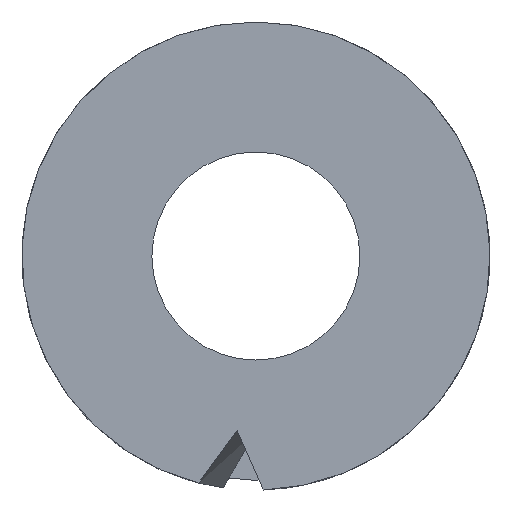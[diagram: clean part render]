
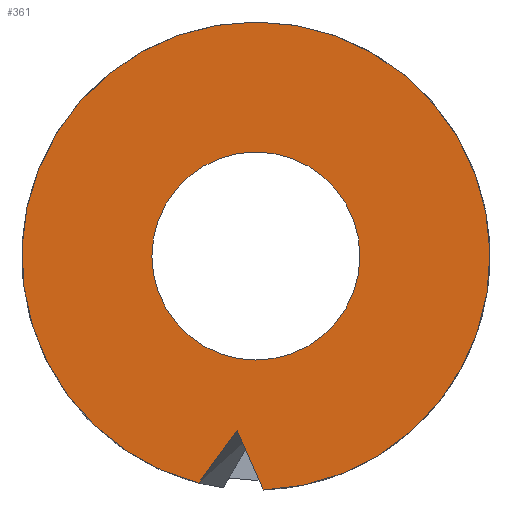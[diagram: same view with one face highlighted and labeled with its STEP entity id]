
A CAD part, left-side view. The second image highlights one B-rep face of the part: STEP entity #361.
In plain terms, the highlighted planar face has unit normal (-1, 0, 0).
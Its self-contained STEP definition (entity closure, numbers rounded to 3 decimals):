
#29 = CIRCLE ( 'NONE', #126, 0.8 ) ;
#43 = CARTESIAN_POINT ( 'NONE',  ( -4., 0., 1.8 ) ) ;
#67 = EDGE_CURVE ( 'NONE', #1027, #180, #130, .T. ) ;
#126 = AXIS2_PLACEMENT_3D ( 'NONE', #456, #283, #1204 ) ;
#130 =( BOUNDED_CURVE ( )  B_SPLINE_CURVE ( 1, ( #1058, #312 ),
 .UNSPECIFIED., .F., .T. ) 
 B_SPLINE_CURVE_WITH_KNOTS ( ( 2, 2 ),
 ( 0., 0. ),
 .UNSPECIFIED. ) 
 CURVE ( )  GEOMETRIC_REPRESENTATION_ITEM ( )  RATIONAL_B_SPLINE_CURVE ( ( 0.997, 0.997 ) ) 
 REPRESENTATION_ITEM ( '' )  );
#144 = EDGE_CURVE ( 'NONE', #926, #486, #682, .T. ) ;
#156 = DIRECTION ( 'NONE',  ( 1., 0., 0. ) ) ;
#172 = EDGE_LOOP ( 'NONE', ( #1025, #1155, #657, #199 ) ) ;
#180 = VERTEX_POINT ( 'NONE', #204 ) ;
#184 = CIRCLE ( 'NONE', #502, 1.8 ) ;
#199 = ORIENTED_EDGE ( 'NONE', *, *, #543, .F. ) ;
#204 = CARTESIAN_POINT ( 'NONE',  ( -4., -0.057, -1.799 ) ) ;
#283 = DIRECTION ( 'NONE',  ( 1., 0., 0. ) ) ;
#312 = CARTESIAN_POINT ( 'NONE',  ( -4., -0.057, -1.799 ) ) ;
#361 = ADVANCED_FACE ( 'NONE', ( #1081, #704 ), #507, .T. ) ;
#417 = AXIS2_PLACEMENT_3D ( 'NONE', #872, #766, #785 ) ;
#419 = CARTESIAN_POINT ( 'NONE',  ( -4., 1.8, 0. ) ) ;
#446 = CARTESIAN_POINT ( 'NONE',  ( -4., 0., -0.8 ) ) ;
#456 = CARTESIAN_POINT ( 'NONE',  ( -4., 0., 0. ) ) ;
#470 =( BOUNDED_CURVE ( )  B_SPLINE_CURVE ( 1, ( #1024, #632 ),
 .UNSPECIFIED., .F., .T. ) 
 B_SPLINE_CURVE_WITH_KNOTS ( ( 2, 2 ),
 ( 0., 0. ),
 .UNSPECIFIED. ) 
 CURVE ( )  GEOMETRIC_REPRESENTATION_ITEM ( )  RATIONAL_B_SPLINE_CURVE ( ( 0.997, 0.997 ) ) 
 REPRESENTATION_ITEM ( '' )  );
#484 = DIRECTION ( 'NONE',  ( 1., 0., 0. ) ) ;
#486 = VERTEX_POINT ( 'NONE', #446 ) ;
#502 = AXIS2_PLACEMENT_3D ( 'NONE', #1004, #156, #532 ) ;
#507 = PLANE ( 'NONE',  #916 ) ;
#532 = DIRECTION ( 'NONE',  ( 0., 0., -1. ) ) ;
#543 = EDGE_CURVE ( 'NONE', #550, #898, #184, .T. ) ;
#550 = VERTEX_POINT ( 'NONE', #909 ) ;
#600 = EDGE_CURVE ( 'NONE', #550, #1027, #470, .T. ) ;
#632 = CARTESIAN_POINT ( 'NONE',  ( -4., 0.145, -1.342 ) ) ;
#657 = ORIENTED_EDGE ( 'NONE', *, *, #990, .F. ) ;
#682 = CIRCLE ( 'NONE', #957, 0.8 ) ;
#693 = DIRECTION ( 'NONE',  ( 0., 1., 0. ) ) ;
#704 = FACE_BOUND ( 'NONE', #1124, .T. ) ;
#746 = ORIENTED_EDGE ( 'NONE', *, *, #783, .T. ) ;
#766 = DIRECTION ( 'NONE',  ( 1., 0., 0. ) ) ;
#783 = EDGE_CURVE ( 'NONE', #486, #926, #29, .T. ) ;
#785 = DIRECTION ( 'NONE',  ( 0., 0., -1. ) ) ;
#788 = DIRECTION ( 'NONE',  ( 0., 0., 1. ) ) ;
#872 = CARTESIAN_POINT ( 'NONE',  ( -4., 0., 0. ) ) ;
#898 = VERTEX_POINT ( 'NONE', #43 ) ;
#909 = CARTESIAN_POINT ( 'NONE',  ( -4., 0.44, -1.745 ) ) ;
#916 = AXIS2_PLACEMENT_3D ( 'NONE', #419, #1101, #788 ) ;
#926 = VERTEX_POINT ( 'NONE', #1171 ) ;
#957 = AXIS2_PLACEMENT_3D ( 'NONE', #1063, #484, #693 ) ;
#990 = EDGE_CURVE ( 'NONE', #898, #180, #1164, .T. ) ;
#1004 = CARTESIAN_POINT ( 'NONE',  ( -4., 0., 0. ) ) ;
#1024 = CARTESIAN_POINT ( 'NONE',  ( -4., 0.44, -1.745 ) ) ;
#1025 = ORIENTED_EDGE ( 'NONE', *, *, #600, .T. ) ;
#1027 = VERTEX_POINT ( 'NONE', #1039 ) ;
#1039 = CARTESIAN_POINT ( 'NONE',  ( -4., 0.145, -1.342 ) ) ;
#1053 = ORIENTED_EDGE ( 'NONE', *, *, #144, .T. ) ;
#1058 = CARTESIAN_POINT ( 'NONE',  ( -4., 0.145, -1.342 ) ) ;
#1063 = CARTESIAN_POINT ( 'NONE',  ( -4., 0., 0. ) ) ;
#1081 = FACE_OUTER_BOUND ( 'NONE', #172, .T. ) ;
#1101 = DIRECTION ( 'NONE',  ( -1., 0., 0. ) ) ;
#1124 = EDGE_LOOP ( 'NONE', ( #746, #1053 ) ) ;
#1155 = ORIENTED_EDGE ( 'NONE', *, *, #67, .T. ) ;
#1164 = CIRCLE ( 'NONE', #417, 1.8 ) ;
#1171 = CARTESIAN_POINT ( 'NONE',  ( -4., 0., 0.8 ) ) ;
#1204 = DIRECTION ( 'NONE',  ( 0., 1., 0. ) ) ;
